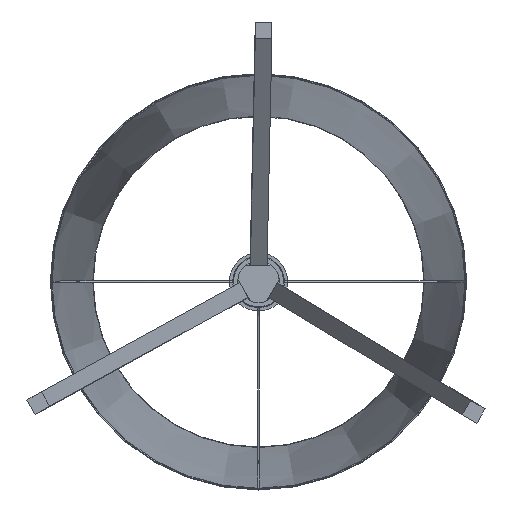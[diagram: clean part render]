
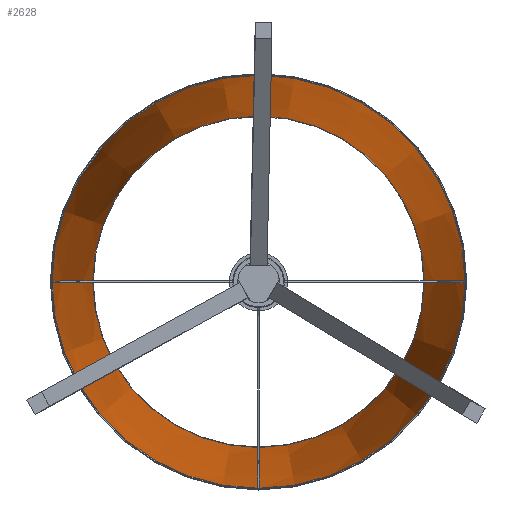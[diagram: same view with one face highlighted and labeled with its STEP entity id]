
A CAD part, front view. The second image highlights one B-rep face of the part: STEP entity #2628.
In plain terms, the highlighted conical face has half-angle 4.453 degrees and reference radius 249.003 mm.
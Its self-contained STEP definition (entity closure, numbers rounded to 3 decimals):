
#39=CONICAL_SURFACE('',#2959,249.003,0.078);
#344=LINE('',#4482,#533);
#533=VECTOR('',#3576,250.);
#794=FACE_OUTER_BOUND('',#980,.T.);
#980=EDGE_LOOP('',(#2183,#2184,#2185,#2186));
#1151=CIRCLE('',#2958,199.075);
#1152=CIRCLE('',#2960,248.997);
#1319=VERTEX_POINT('',#4477);
#1320=VERTEX_POINT('',#4480);
#1627=EDGE_CURVE('',#1319,#1319,#1151,.T.);
#1628=EDGE_CURVE('',#1320,#1320,#1152,.T.);
#1629=EDGE_CURVE('',#1320,#1319,#344,.T.);
#2183=ORIENTED_EDGE('',*,*,#1628,.F.);
#2184=ORIENTED_EDGE('',*,*,#1629,.T.);
#2185=ORIENTED_EDGE('',*,*,#1627,.F.);
#2186=ORIENTED_EDGE('',*,*,#1629,.F.);
#2628=ADVANCED_FACE('',(#794),#39,.F.);
#2958=AXIS2_PLACEMENT_3D('',#4478,#3570,#3571);
#2959=AXIS2_PLACEMENT_3D('',#4479,#3572,#3573);
#2960=AXIS2_PLACEMENT_3D('',#4481,#3574,#3575);
#3570=DIRECTION('center_axis',(0.,1.,0.));
#3571=DIRECTION('ref_axis',(1.,0.,0.));
#3572=DIRECTION('center_axis',(0.,1.,0.));
#3573=DIRECTION('ref_axis',(1.,0.,0.));
#3574=DIRECTION('center_axis',(0.,-1.,0.));
#3575=DIRECTION('ref_axis',(1.,0.,0.));
#3576=DIRECTION('',(0.078,-0.997,0.));
#4477=CARTESIAN_POINT('',(-199.075,472.,0.));
#4478=CARTESIAN_POINT('Origin',(0.,472.,0.));
#4479=CARTESIAN_POINT('Origin',(0.,1113.078,0.));
#4480=CARTESIAN_POINT('',(-248.997,1113.,0.));
#4481=CARTESIAN_POINT('Origin',(0.,1113.,0.));
#4482=CARTESIAN_POINT('',(-249.003,1113.078,0.));
